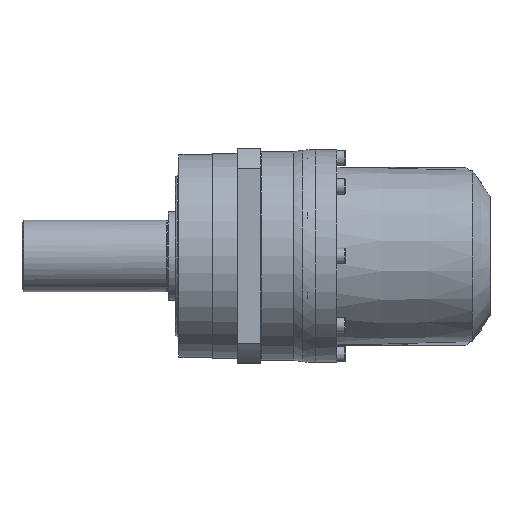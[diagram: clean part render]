
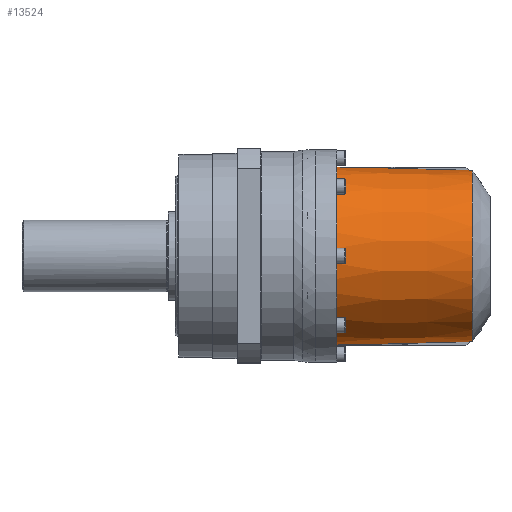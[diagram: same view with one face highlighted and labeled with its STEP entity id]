
A CAD part, top view. The second image highlights one B-rep face of the part: STEP entity #13524.
In plain terms, the highlighted conical face has half-angle 1.507 degrees and reference radius 49 mm.
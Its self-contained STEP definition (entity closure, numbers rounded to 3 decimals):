
#766=CONICAL_SURFACE('',#15099,49.,0.026);
#1561=FACE_OUTER_BOUND('',#2373,.T.);
#2373=EDGE_LOOP('',(#10377,#10378,#10379,#10380,#10381,#10382,#10383));
#3103=B_SPLINE_CURVE_WITH_KNOTS('',3,(#23152,#23153,#23154,#23155),
 .UNSPECIFIED.,.F.,.F.,(4,4),(0.5,5.292),
 .UNSPECIFIED.);
#3107=B_SPLINE_CURVE_WITH_KNOTS('',3,(#23313,#23314,#23315,#23316,#23317,
#23318,#23319,#23320,#23321,#23322,#23323,#23324,#23325,#23326,#23327,#23328,
#23329,#23330,#23331,#23332,#23333,#23334,#23335,#23336,#23337,#23338,#23339,
#23340,#23341,#23342,#23343,#23344,#23345,#23346,#23347,#23348,#23349,#23350,
#23351,#23352),.UNSPECIFIED.,.F.,.F.,(4,3,3,3,3,3,3,3,3,3,3,3,3,4),(-10.923,
-10.569,-10.204,-9.819,-9.568,
-9.149,-8.714,-8.257,-8.03,
-7.583,-7.137,-6.894,-6.651,
-6.492),.UNSPECIFIED.);
#3112=B_SPLINE_CURVE_WITH_KNOTS('',3,(#23385,#23386,#23387,#23388,#23389,
#23390,#23391,#23392,#23393,#23394,#23395,#23396,#23397,#23398,#23399,#23400,
#23401,#23402,#23403,#23404,#23405,#23406,#23407,#23408,#23409,#23410,#23411,
#23412,#23413,#23414,#23415,#23416,#23417,#23418,#23419,#23420,#23421,#23422,
#23423,#23424),.UNSPECIFIED.,.F.,.F.,(4,3,3,3,3,3,3,3,3,3,3,3,3,4),(-17.257,
-16.765,-16.229,-15.718,-15.217,-14.775,
-14.561,-14.258,-14.181,-13.89,
-13.609,-13.335,-13.072,-12.825),
 .UNSPECIFIED.);
#3113=B_SPLINE_CURVE_WITH_KNOTS('',3,(#23446,#23447,#23448,#23449),
 .UNSPECIFIED.,.F.,.F.,(4,4),(-5.292,-0.5),
 .UNSPECIFIED.);
#4850=CIRCLE('',#15100,48.);
#4851=CIRCLE('',#15101,48.);
#4852=CIRCLE('',#15102,50.);
#6103=VERTEX_POINT('',#23101);
#6104=VERTEX_POINT('',#23151);
#6106=VERTEX_POINT('',#23237);
#6107=VERTEX_POINT('',#23238);
#6108=VERTEX_POINT('',#23312);
#6112=VERTEX_POINT('',#23445);
#6115=VERTEX_POINT('',#23510);
#7784=EDGE_CURVE('',#6103,#6104,#3103,.T.);
#7788=EDGE_CURVE('',#6106,#6108,#3107,.T.);
#7793=EDGE_CURVE('',#6104,#6107,#3112,.T.);
#7794=EDGE_CURVE('',#6108,#6112,#3113,.T.);
#7798=EDGE_CURVE('',#6106,#6115,#4850,.T.);
#7799=EDGE_CURVE('',#6115,#6107,#4851,.T.);
#7800=EDGE_CURVE('',#6112,#6103,#4852,.T.);
#10377=ORIENTED_EDGE('',*,*,#7794,.F.);
#10378=ORIENTED_EDGE('',*,*,#7788,.F.);
#10379=ORIENTED_EDGE('',*,*,#7798,.T.);
#10380=ORIENTED_EDGE('',*,*,#7799,.T.);
#10381=ORIENTED_EDGE('',*,*,#7793,.F.);
#10382=ORIENTED_EDGE('',*,*,#7784,.F.);
#10383=ORIENTED_EDGE('',*,*,#7800,.F.);
#13524=ADVANCED_FACE('',(#1561),#766,.T.);
#15099=AXIS2_PLACEMENT_3D('',#23509,#17807,#17808);
#15100=AXIS2_PLACEMENT_3D('',#23511,#17809,#17810);
#15101=AXIS2_PLACEMENT_3D('',#23512,#17811,#17812);
#15102=AXIS2_PLACEMENT_3D('',#23513,#17813,#17814);
#17807=DIRECTION('center_axis',(-1.,0.,0.));
#17808=DIRECTION('ref_axis',(0.,0.,-1.));
#17809=DIRECTION('center_axis',(-1.,0.,0.));
#17810=DIRECTION('ref_axis',(0.,0.,1.));
#17811=DIRECTION('center_axis',(-1.,0.,0.));
#17812=DIRECTION('ref_axis',(0.,0.,1.));
#17813=DIRECTION('center_axis',(-1.,0.,0.));
#17814=DIRECTION('ref_axis',(0.,0.,1.));
#23101=CARTESIAN_POINT('',(12.,-35.15,35.559));
#23151=CARTESIAN_POINT('',(59.899,-34.554,34.374));
#23152=CARTESIAN_POINT('Ctrl Pts',(12.,-35.15,35.559));
#23153=CARTESIAN_POINT('Ctrl Pts',(27.966,-34.952,35.164));
#23154=CARTESIAN_POINT('Ctrl Pts',(43.932,-34.753,34.769));
#23155=CARTESIAN_POINT('Ctrl Pts',(59.899,-34.554,34.374));
#23237=CARTESIAN_POINT('',(88.,8.479,47.245));
#23238=CARTESIAN_POINT('',(88.,-8.479,47.245));
#23312=CARTESIAN_POINT('',(59.899,34.554,34.374));
#23313=CARTESIAN_POINT('Ctrl Pts',(88.,8.479,47.246));
#23314=CARTESIAN_POINT('Ctrl Pts',(87.704,9.501,47.07));
#23315=CARTESIAN_POINT('Ctrl Pts',(87.357,10.505,46.864));
#23316=CARTESIAN_POINT('Ctrl Pts',(86.962,11.488,46.631));
#23317=CARTESIAN_POINT('Ctrl Pts',(86.555,12.499,46.392));
#23318=CARTESIAN_POINT('Ctrl Pts',(86.099,13.488,46.125));
#23319=CARTESIAN_POINT('Ctrl Pts',(85.597,14.452,45.836));
#23320=CARTESIAN_POINT('Ctrl Pts',(85.068,15.466,45.53));
#23321=CARTESIAN_POINT('Ctrl Pts',(84.49,16.452,45.2));
#23322=CARTESIAN_POINT('Ctrl Pts',(83.867,17.405,44.849));
#23323=CARTESIAN_POINT('Ctrl Pts',(83.46,18.028,44.619));
#23324=CARTESIAN_POINT('Ctrl Pts',(83.034,18.637,44.381));
#23325=CARTESIAN_POINT('Ctrl Pts',(82.591,19.231,44.136));
#23326=CARTESIAN_POINT('Ctrl Pts',(81.849,20.225,43.726));
#23327=CARTESIAN_POINT('Ctrl Pts',(81.059,21.177,43.295));
#23328=CARTESIAN_POINT('Ctrl Pts',(80.223,22.089,42.849));
#23329=CARTESIAN_POINT('Ctrl Pts',(79.358,23.033,42.388));
#23330=CARTESIAN_POINT('Ctrl Pts',(78.444,23.934,41.912));
#23331=CARTESIAN_POINT('Ctrl Pts',(77.486,24.792,41.427));
#23332=CARTESIAN_POINT('Ctrl Pts',(76.482,25.691,40.919));
#23333=CARTESIAN_POINT('Ctrl Pts',(75.431,26.543,40.402));
#23334=CARTESIAN_POINT('Ctrl Pts',(74.336,27.347,39.884));
#23335=CARTESIAN_POINT('Ctrl Pts',(73.79,27.748,39.626));
#23336=CARTESIAN_POINT('Ctrl Pts',(73.233,28.138,39.368));
#23337=CARTESIAN_POINT('Ctrl Pts',(72.667,28.516,39.11));
#23338=CARTESIAN_POINT('Ctrl Pts',(71.556,29.257,38.605));
#23339=CARTESIAN_POINT('Ctrl Pts',(70.406,29.954,38.103));
#23340=CARTESIAN_POINT('Ctrl Pts',(69.22,30.605,37.613));
#23341=CARTESIAN_POINT('Ctrl Pts',(68.034,31.256,37.124));
#23342=CARTESIAN_POINT('Ctrl Pts',(66.811,31.862,36.647));
#23343=CARTESIAN_POINT('Ctrl Pts',(65.554,32.421,36.19));
#23344=CARTESIAN_POINT('Ctrl Pts',(64.87,32.726,35.942));
#23345=CARTESIAN_POINT('Ctrl Pts',(64.175,33.017,35.7));
#23346=CARTESIAN_POINT('Ctrl Pts',(63.471,33.294,35.466));
#23347=CARTESIAN_POINT('Ctrl Pts',(62.767,33.571,35.231));
#23348=CARTESIAN_POINT('Ctrl Pts',(62.053,33.834,35.005));
#23349=CARTESIAN_POINT('Ctrl Pts',(61.33,34.083,34.788));
#23350=CARTESIAN_POINT('Ctrl Pts',(60.857,34.246,34.645));
#23351=CARTESIAN_POINT('Ctrl Pts',(60.38,34.403,34.507));
#23352=CARTESIAN_POINT('Ctrl Pts',(59.899,34.554,34.374));
#23385=CARTESIAN_POINT('Ctrl Pts',(59.899,-34.554,34.374));
#23386=CARTESIAN_POINT('Ctrl Pts',(61.387,-34.087,34.787));
#23387=CARTESIAN_POINT('Ctrl Pts',(62.837,-33.563,35.243));
#23388=CARTESIAN_POINT('Ctrl Pts',(64.246,-32.982,35.727));
#23389=CARTESIAN_POINT('Ctrl Pts',(65.782,-32.349,36.256));
#23390=CARTESIAN_POINT('Ctrl Pts',(67.27,-31.648,36.82));
#23391=CARTESIAN_POINT('Ctrl Pts',(68.706,-30.882,37.403));
#23392=CARTESIAN_POINT('Ctrl Pts',(70.073,-30.152,37.959));
#23393=CARTESIAN_POINT('Ctrl Pts',(71.393,-29.363,38.532));
#23394=CARTESIAN_POINT('Ctrl Pts',(72.664,-28.514,39.11));
#23395=CARTESIAN_POINT('Ctrl Pts',(73.913,-27.68,39.678));
#23396=CARTESIAN_POINT('Ctrl Pts',(75.114,-26.789,40.251));
#23397=CARTESIAN_POINT('Ctrl Pts',(76.261,-25.841,40.817));
#23398=CARTESIAN_POINT('Ctrl Pts',(77.271,-25.005,41.315));
#23399=CARTESIAN_POINT('Ctrl Pts',(78.238,-24.124,41.809));
#23400=CARTESIAN_POINT('Ctrl Pts',(79.158,-23.199,42.289));
#23401=CARTESIAN_POINT('Ctrl Pts',(79.604,-22.751,42.522));
#23402=CARTESIAN_POINT('Ctrl Pts',(80.038,-22.292,42.752));
#23403=CARTESIAN_POINT('Ctrl Pts',(80.461,-21.822,42.978));
#23404=CARTESIAN_POINT('Ctrl Pts',(81.058,-21.158,43.297));
#23405=CARTESIAN_POINT('Ctrl Pts',(81.632,-20.474,43.609));
#23406=CARTESIAN_POINT('Ctrl Pts',(82.18,-19.768,43.91));
#23407=CARTESIAN_POINT('Ctrl Pts',(82.319,-19.589,43.986));
#23408=CARTESIAN_POINT('Ctrl Pts',(82.456,-19.408,44.062));
#23409=CARTESIAN_POINT('Ctrl Pts',(82.592,-19.227,44.137));
#23410=CARTESIAN_POINT('Ctrl Pts',(83.107,-18.537,44.422));
#23411=CARTESIAN_POINT('Ctrl Pts',(83.598,-17.827,44.697));
#23412=CARTESIAN_POINT('Ctrl Pts',(84.064,-17.1,44.96));
#23413=CARTESIAN_POINT('Ctrl Pts',(84.511,-16.4,45.213));
#23414=CARTESIAN_POINT('Ctrl Pts',(84.935,-15.683,45.454));
#23415=CARTESIAN_POINT('Ctrl Pts',(85.332,-14.95,45.682));
#23416=CARTESIAN_POINT('Ctrl Pts',(85.719,-14.236,45.905));
#23417=CARTESIAN_POINT('Ctrl Pts',(86.082,-13.506,46.116));
#23418=CARTESIAN_POINT('Ctrl Pts',(86.418,-12.763,46.312));
#23419=CARTESIAN_POINT('Ctrl Pts',(86.741,-12.048,46.5));
#23420=CARTESIAN_POINT('Ctrl Pts',(87.039,-11.32,46.676));
#23421=CARTESIAN_POINT('Ctrl Pts',(87.31,-10.581,46.836));
#23422=CARTESIAN_POINT('Ctrl Pts',(87.564,-9.89,46.986));
#23423=CARTESIAN_POINT('Ctrl Pts',(87.795,-9.189,47.123));
#23424=CARTESIAN_POINT('Ctrl Pts',(88.,-8.479,47.246));
#23445=CARTESIAN_POINT('',(12.,35.15,35.559));
#23446=CARTESIAN_POINT('Ctrl Pts',(59.899,34.554,34.374));
#23447=CARTESIAN_POINT('Ctrl Pts',(43.932,34.753,34.769));
#23448=CARTESIAN_POINT('Ctrl Pts',(27.966,34.952,35.164));
#23449=CARTESIAN_POINT('Ctrl Pts',(12.,35.15,35.559));
#23509=CARTESIAN_POINT('Origin',(50.,0.,0.));
#23510=CARTESIAN_POINT('',(88.,48.,0.));
#23511=CARTESIAN_POINT('Origin',(88.,0.,0.));
#23512=CARTESIAN_POINT('Origin',(88.,0.,0.));
#23513=CARTESIAN_POINT('Origin',(12.,0.,0.));
